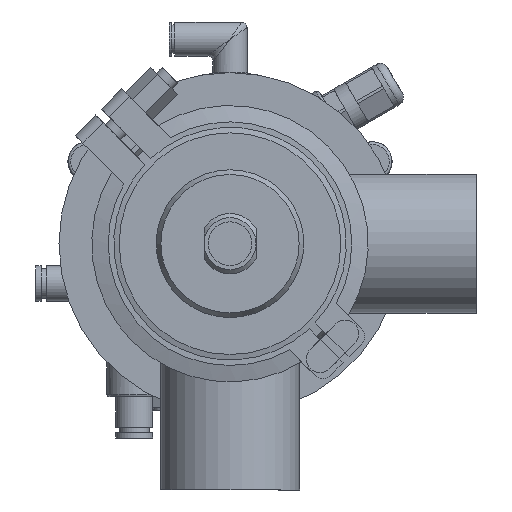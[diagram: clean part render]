
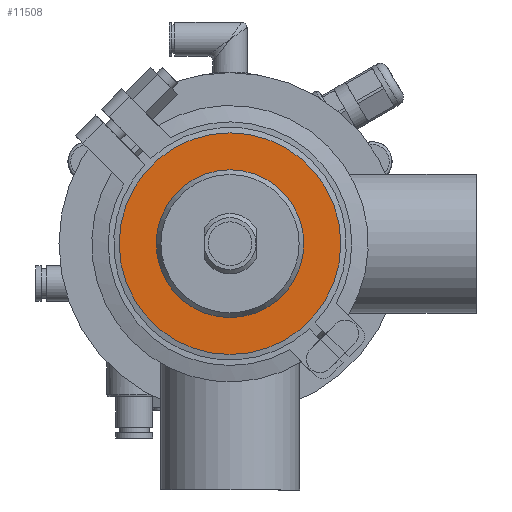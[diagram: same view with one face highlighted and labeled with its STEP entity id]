
A CAD part, front view. The second image highlights one B-rep face of the part: STEP entity #11508.
In plain terms, the highlighted planar face has unit normal (0, -1, 0).
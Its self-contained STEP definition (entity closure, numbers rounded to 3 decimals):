
#968 = AXIS2_PLACEMENT_3D ( 'NONE', #1359, #58553, #20918 ) ;
#1359 = CARTESIAN_POINT ( 'NONE',  ( 0., -13., 0. ) ) ;
#3756 = EDGE_CURVE ( 'NONE', #28572, #28572, #33417, .T. ) ;
#9410 = DIRECTION ( 'NONE',  ( 0., 0., 1. ) ) ;
#11508 = ADVANCED_FACE ( 'NONE', ( #42335, #60034 ), #31788, .T. ) ;
#14678 = ORIENTED_EDGE ( 'NONE', *, *, #3756, .F. ) ;
#20918 = DIRECTION ( 'NONE',  ( 0., 0., 1. ) ) ;
#22419 = CARTESIAN_POINT ( 'NONE',  ( -40.5, -13., 0. ) ) ;
#22714 = DIRECTION ( 'NONE',  ( 0., -1., 0. ) ) ;
#25724 = EDGE_CURVE ( 'NONE', #53256, #53256, #54565, .T. ) ;
#28572 = VERTEX_POINT ( 'NONE', #60581 ) ;
#31660 = AXIS2_PLACEMENT_3D ( 'NONE', #22419, #22714, #46719 ) ;
#31788 = PLANE ( 'NONE',  #31660 ) ;
#33417 = CIRCLE ( 'NONE', #42319, 40.5 ) ;
#36512 = CARTESIAN_POINT ( 'NONE',  ( 0., -13., 0. ) ) ;
#42319 = AXIS2_PLACEMENT_3D ( 'NONE', #36512, #55392, #9410 ) ;
#42335 = FACE_BOUND ( 'NONE', #46932, .T. ) ;
#46719 = DIRECTION ( 'NONE',  ( 0., 0., -1. ) ) ;
#46932 = EDGE_LOOP ( 'NONE', ( #59321 ) ) ;
#51551 = EDGE_LOOP ( 'NONE', ( #14678 ) ) ;
#53256 = VERTEX_POINT ( 'NONE', #53867 ) ;
#53867 = CARTESIAN_POINT ( 'NONE',  ( 0., -13., 27. ) ) ;
#54565 = CIRCLE ( 'NONE', #968, 27. ) ;
#55392 = DIRECTION ( 'NONE',  ( 0., 1., 0. ) ) ;
#58553 = DIRECTION ( 'NONE',  ( 0., 1., 0. ) ) ;
#59321 = ORIENTED_EDGE ( 'NONE', *, *, #25724, .T. ) ;
#60034 = FACE_OUTER_BOUND ( 'NONE', #51551, .T. ) ;
#60581 = CARTESIAN_POINT ( 'NONE',  ( 0., -13., 40.5 ) ) ;
